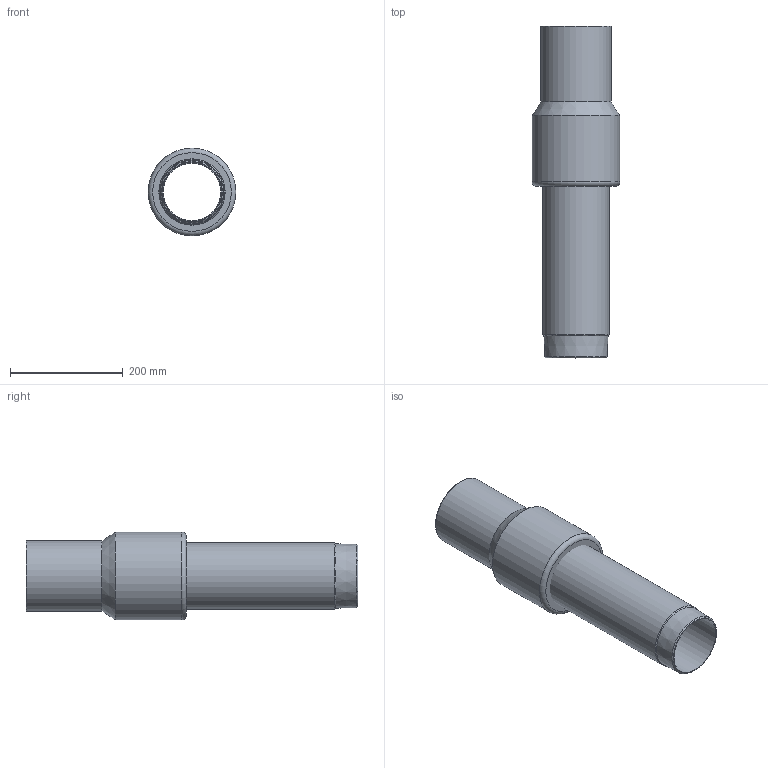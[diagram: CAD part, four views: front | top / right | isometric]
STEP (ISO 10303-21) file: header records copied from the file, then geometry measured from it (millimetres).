
FILE_DESCRIPTION(/* description */ ('Unknown'),/* implementation_level */ '2;1');
FILE_NAME(/* name */ 'RTFZRP125C',/* time_stamp */ '2022-04-27T09:25:18+02:00',/* author */ ('Unknown'),/* organization */ ('Unknown'),/* preprocessor_version */ 'ST-DEVELOPER v18.1',/* originating_system */ 'Solid Edge',/* authorisation */ 'Unknown');
FILE_SCHEMA (('AUTOMOTIVE_DESIGN {1 0 10303 214 3 1 1}'));
Length unit declared in the file: millimetre
Products named in the file (4): RTFZRP125C; Partea ACCIAIO_oa_0; copertura tubo_oa_1; Parte PE_
Assembly tree (3 placements, depth 2):
  RTFZRP125C
    Partea ACCIAIO_oa_0
    copertura tubo_oa_1
    Parte PE_
Bounding box: 156 x 590 x 156 mm (x, y, z)
Volume: 2752940.6 mm3; surface area: 821394.8 mm2
Topology: 3 solids, 3 shells, 20 faces, 36 edges, 22 vertices
Faces by surface type: cylinder 8, plane 6, cone 4, torus 2
Full cylindrical faces by diameter (mm): 102.2 x1, 105.3 x1, 114.3 x3, 117.9 x1, 125 x1, 156 x1
Entity records: 503 total; most frequent: DIRECTION 88, CARTESIAN_POINT 64, AXIS2_PLACEMENT_3D 44, ORIENTED_EDGE 40, EDGE_LOOP 40, FACE_BOUND 40, EDGE_CURVE 20, VERTEX_POINT 20
